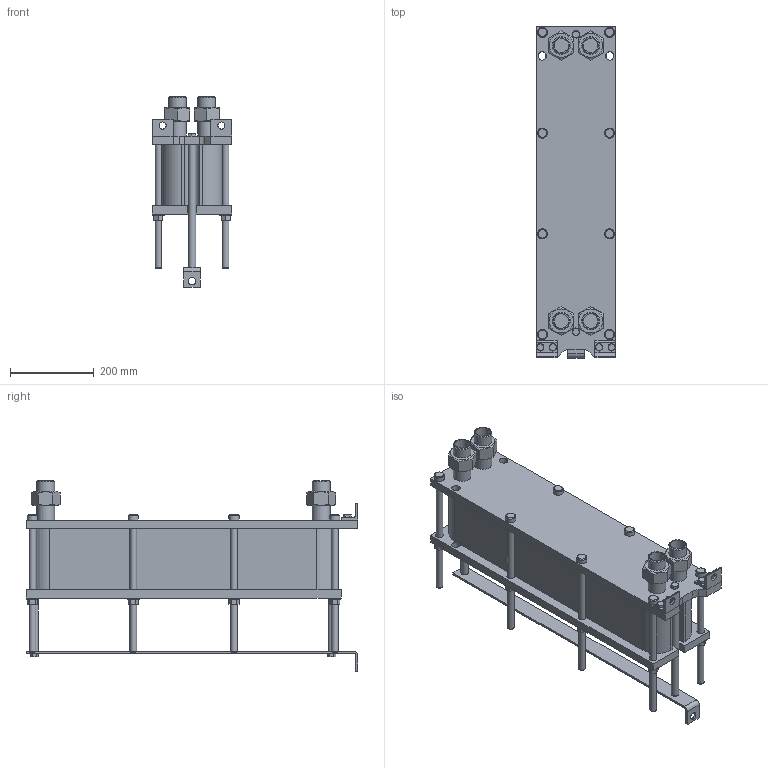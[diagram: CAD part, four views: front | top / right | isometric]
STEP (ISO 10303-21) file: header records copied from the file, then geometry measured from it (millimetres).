
FILE_DESCRIPTION(/* description */ (''),/* implementation_level */ '2;1');
FILE_NAME(/* name */ 'C:\Users\zhuro\Desktop\ENCO\TO\ЭН-008\ЭН-0,5-008-47-1.stp',/* time_stamp */ '2022-06-06T10:48:59+03:00',/* author */ ('zhuro'),/* organization */ (''),/* preprocessor_version */ 'ST-DEVELOPER v18.1',/* originating_system */ 'Autodesk Inventor 2022',/* authorisation */ '');
FILE_SCHEMA (('AUTOMOTIVE_DESIGN { 1 0 10303 214 3 1 1 }'));
Length unit declared in the file: millimetre
Products named in the file (1): ЭН-0,5-008-47-1
Bounding box: 190 x 790 x 454.6 mm (x, y, z)
Volume: 21599674.2 mm3; surface area: 1573206.8 mm2
Topology: 40 solids, 40 shells, 428 faces, 924 edges, 606 vertices
Faces by surface type: plane 273, cylinder 109, cone 40, torus 6
Full cylindrical faces by diameter (mm): 12 x6, 14 x2, 16 x20, 17 x8, 18 x19, 20 x5, 24 x8, 28 x8, 34.3 x8, 42.3 x8
Entity records: 15843 total; most frequent: CARTESIAN_POINT 5991, DIRECTION 1984, ORIENTED_EDGE 1848, EDGE_CURVE 924, AXIS2_PLACEMENT_3D 715, VERTEX_POINT 606, LINE 554, VECTOR 554
